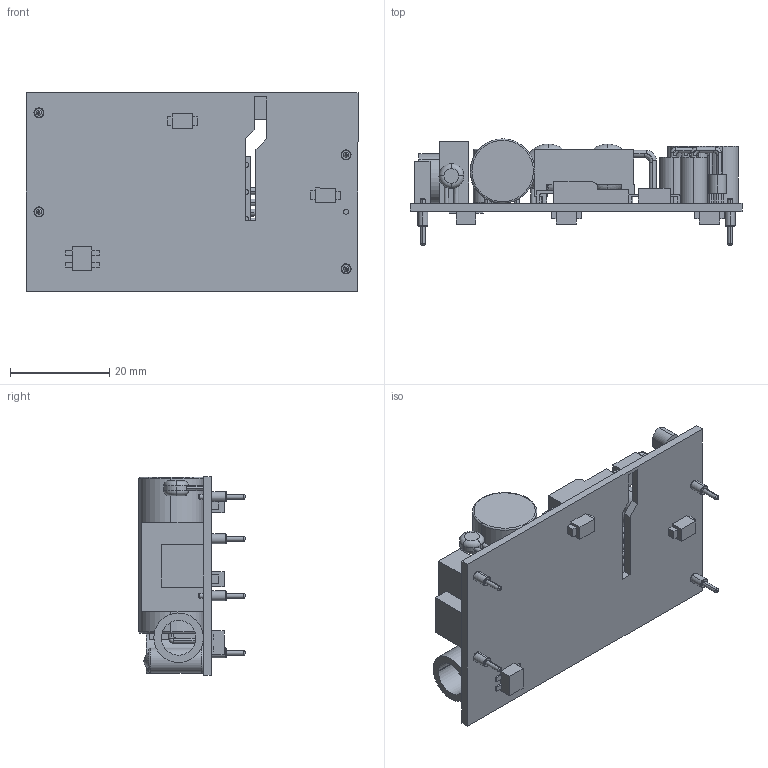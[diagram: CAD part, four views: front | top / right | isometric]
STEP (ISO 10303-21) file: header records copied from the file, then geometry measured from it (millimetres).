
FILE_DESCRIPTION (( 'STEP AP203' ), '1' );
FILE_NAME ('ECP20US.STEP', '2015-04-22T03:30:29', ( 'shifalin@msn.com' ), ( '' ), 'SwSTEP 2.0', 'SolidWorks 2010', '' );
FILE_SCHEMA (( 'CONFIG_CONTROL_DESIGN' ));
Length unit declared in the file: millimetre
Products named in the file (20): FUSE; Cap-13-315; MOSFET; Y-Cap; DB105; SMB; ECP20US; TES20; 20W-PIN; Common-choke; x-cap; NTC-5mm; Cap-5-11; EFD-20; Cap-6.3-11; PHOTO-COUPLER; TL431; Inductor; Cap-8-11; DO-201
Assembly tree (27 placements, depth 2):
  ECP20US
    Cap-8-11  x2
    DO-201  x3
    DB105
    20W-PIN  x4
    Common-choke
    Cap-5-11
    MOSFET
    Inductor
    SMB  x2
    x-cap
    EFD-20
    TL431
    FUSE
    Y-Cap  x2
    TES20
    NTC-5mm
    Cap-13-315
    Cap-6.3-11
    PHOTO-COUPLER
Bounding box: 67 x 21.4 x 40 mm (x, y, z)
Volume: 17123.5 mm3; surface area: 15294.7 mm2
Topology: 27 solids, 27 shells, 715 faces, 1683 edges, 1054 vertices
Faces by surface type: plane 354, cylinder 235, torus 114, bspline 12
Entity records: 20915 total; most frequent: CARTESIAN_POINT 5684, DIRECTION 2818, ORIENTED_EDGE 2608, EDGE_CURVE 1304, AXIS2_PLACEMENT_3D 1015, VERTEX_POINT 828, VECTOR 788, LINE 788
